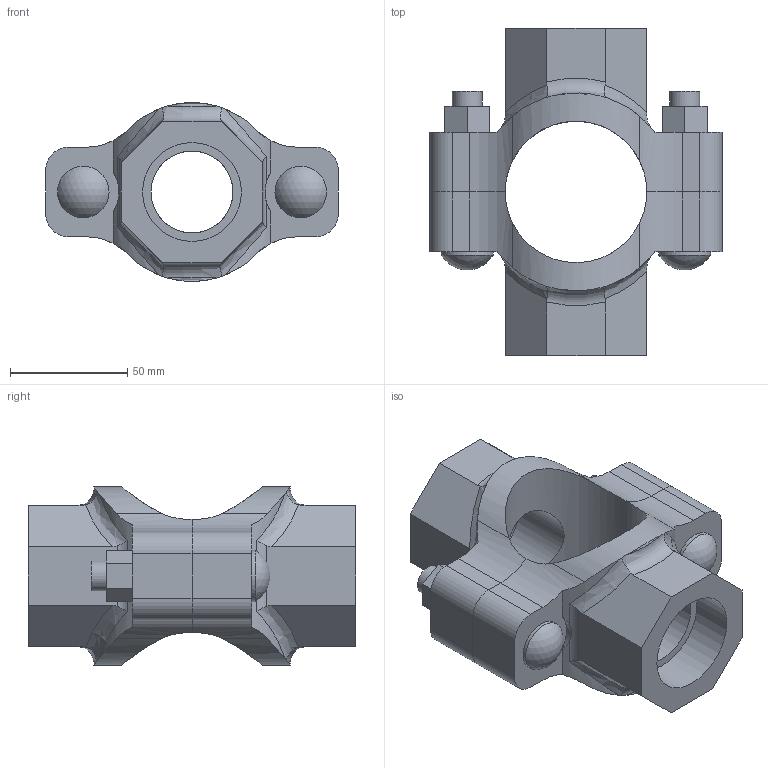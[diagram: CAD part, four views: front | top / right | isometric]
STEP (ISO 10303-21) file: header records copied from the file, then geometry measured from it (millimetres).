
FILE_DESCRIPTION(/* description */ ('VIC MECH-T BRANCH OUTLET CROSS STYLE 920N (THD)','CAx-IF Rec.Pracs.---Representation and Presentation of Product Manufacturing Information (PMI)---4.0---2014-10-13'),/* implementation_level */ '2;1');
FILE_NAME(/* name */ 'C:\Users\Vjadhav\AppData\Roaming\Autodesk\ApplicationPlugins\Back Up\Victaulic_IPS_Mechanical-Cross Outlet_Style 920N (FPT)\Victaulic_IPS_Mechanical-Cross Outlet_02.0x01.25x01.25 (50x32x32).stp',/* time_stamp */ '2020-08-06T18:56:12+05:00',/* author */ ('Vjadhav'),/* organization */ ('Victaulic'),/* preprocessor_version */ 'ST-DEVELOPER v17.2',/* originating_system */ 'Autodesk Inventor 2019',/* authorisation */ '');
FILE_SCHEMA (('AP242_MANAGED_MODEL_BASED_3D_ENGINEERING_MIM_LF { 1 0 10303 442 1 1 4 }'));
Length unit declared in the file: inch
Products named in the file (3): 920NT-02.0x01.25x01.25; 920NT-02.0x01.25; 920NT-02.0x01.25_1
Assembly tree (2 placements, depth 2):
  920NT-02.0x01.25x01.25
    920NT-02.0x01.25
    920NT-02.0x01.25_1
Bounding box: 124.71 x 139.7 x 76.15 mm (x, y, z)
Volume: 336823.8 mm3; surface area: 76082.1 mm2
Topology: 2 solids, 2 shells, 142 faces, 386 edges, 260 vertices
Faces by surface type: plane 68, cylinder 60, bspline 8, torus 4, sphere 2
Full cylindrical faces by diameter (mm): 12.7 x4, 21.982 x2, 34.925 x2, 42.164 x2
Entity records: 5550 total; most frequent: CARTESIAN_POINT 1785, ORIENTED_EDGE 772, DIRECTION 672, EDGE_CURVE 386, VERTEX_POINT 260, AXIS2_PLACEMENT_3D 241, LINE 190, VECTOR 190
